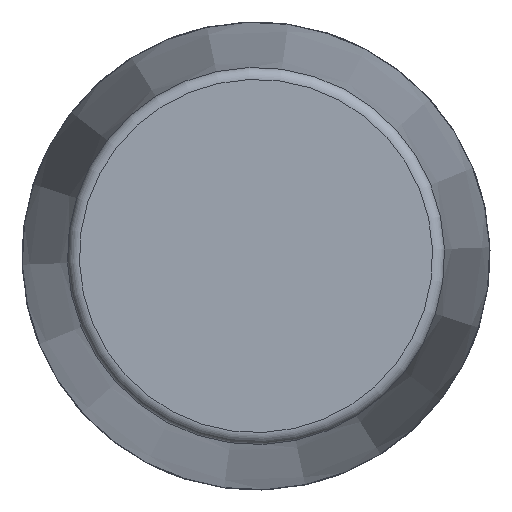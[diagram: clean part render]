
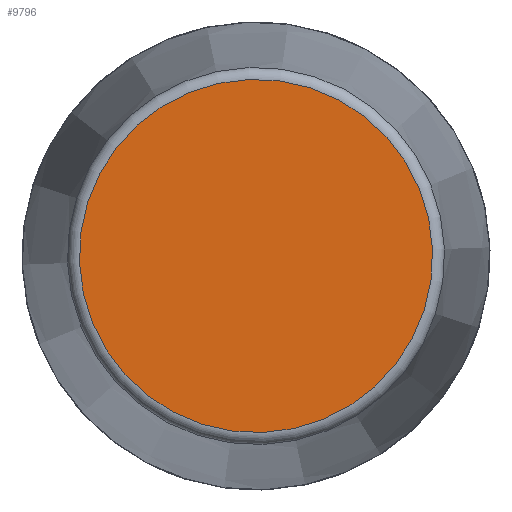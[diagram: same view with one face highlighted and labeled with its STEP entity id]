
A CAD part, front view. The second image highlights one B-rep face of the part: STEP entity #9796.
In plain terms, the highlighted planar face has unit normal (0, -1, 0) as drawn and (1, 0, 0) by its records, which use the part's own axes.
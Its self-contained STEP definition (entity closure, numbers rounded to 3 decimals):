
#263=PLANE('',#10171);
#3362=FACE_OUTER_BOUND('',#3972,.T.);
#3972=EDGE_LOOP('',(#9231));
#4013=CIRCLE('',#10167,147.109);
#4977=VERTEX_POINT('',#18535);
#6398=EDGE_CURVE('',#4977,#4977,#4013,.T.);
#9231=ORIENTED_EDGE('',*,*,#6398,.F.);
#9796=ADVANCED_FACE('',(#3362),#263,.T.);
#10167=AXIS2_PLACEMENT_3D('',#18536,#11591,#11592);
#10171=AXIS2_PLACEMENT_3D('',#18542,#11599,#11600);
#11591=DIRECTION('center_axis',(-1.,0.,0.));
#11592=DIRECTION('ref_axis',(0.,0.,
1.));
#11599=DIRECTION('center_axis',(1.,0.,0.));
#11600=DIRECTION('ref_axis',(0.,0.,-1.));
#18535=CARTESIAN_POINT('',(681.5,0.,-147.109));
#18536=CARTESIAN_POINT('Origin',(681.5,0.,0.));
#18542=CARTESIAN_POINT('Origin',(681.5,0.,0.));
